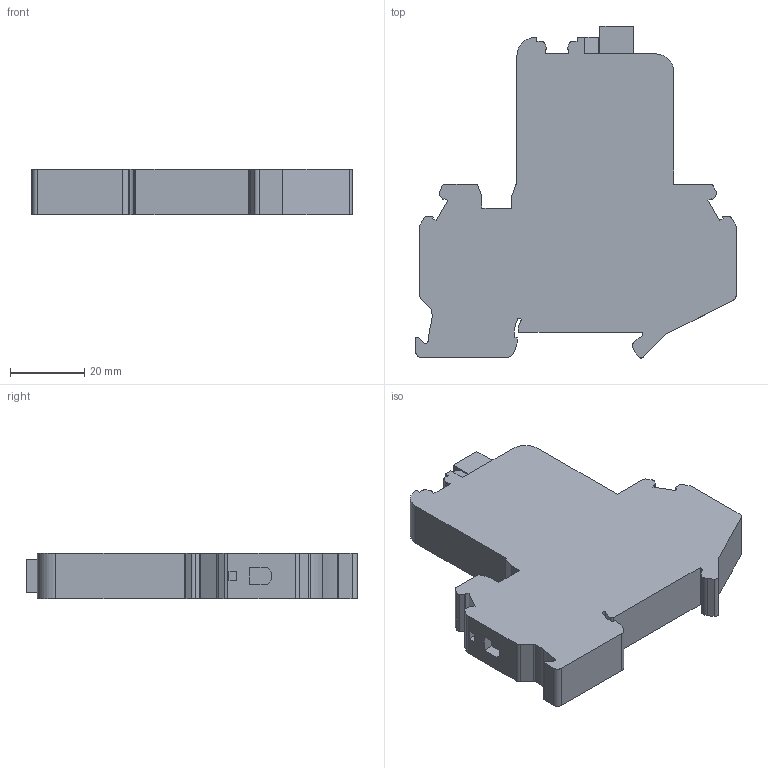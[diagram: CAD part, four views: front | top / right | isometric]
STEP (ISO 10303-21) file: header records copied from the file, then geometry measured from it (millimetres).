
FILE_DESCRIPTION(('SolidDesigner STEP Export'),'2;1');
FILE_NAME('0916608_ut6_tmc_m_6a-select.stp','2008-12-09T 7:38:58',(''),(''),'CoCreate Modeling STEP processor for AP214 (Solid Model)','CoCreate Modeling 16.00A 16-Aug-2008 (C) Parametric Technology GmbH','');
FILE_SCHEMA(('AUTOMOTIVE_DESIGN { 1 0 10303 214 1 1 1 1 }'));
Length unit declared in the file: millimetre
Products named in the file (2): 0916608_ut6_tmc_m_6a-select
Assembly tree (1 placements, depth 2):
  0916608_ut6_tmc_m_6a-select
    0916608_ut6_tmc_m_6a-select
Bounding box: 86.5 x 89.63 x 12.3 mm (x, y, z)
Volume: 60344.6 mm3; surface area: 15201.9 mm2
Topology: 1 solids, 1 shells, 167 faces, 474 edges, 316 vertices
Faces by surface type: plane 113, cylinder 54
Entity records: 6586 total; most frequent: ORIENTED_EDGE 948, CARTESIAN_POINT 916, DIRECTION 838, EDGE_CURVE 474, VECTOR 362, LINE 362, VERTEX_POINT 316, AXIS2_PLACEMENT_3D 238
